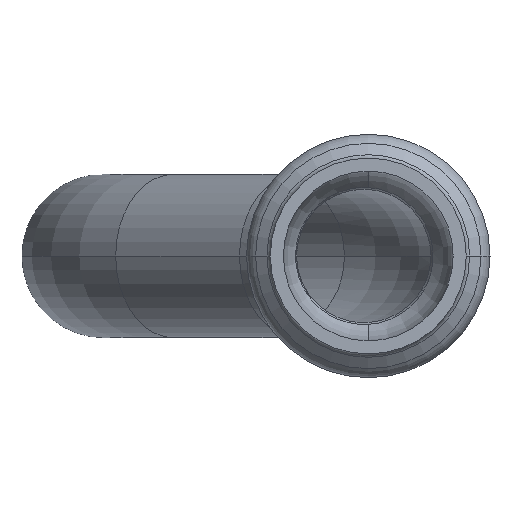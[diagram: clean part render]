
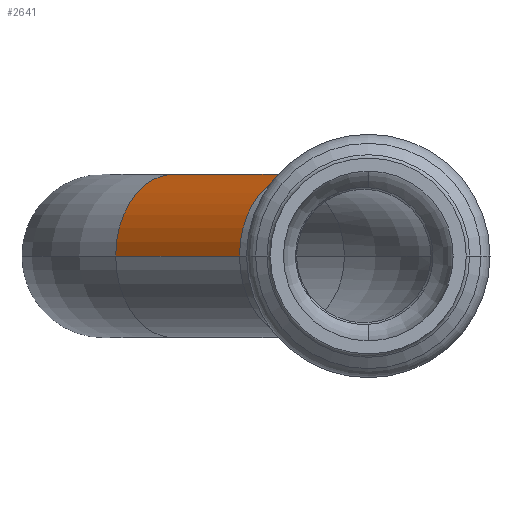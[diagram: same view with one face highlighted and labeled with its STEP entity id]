
A CAD part, left-side view. The second image highlights one B-rep face of the part: STEP entity #2641.
In plain terms, the highlighted cylindrical face has radius 8.75 mm (diameter 17.5 mm), a partial arc.
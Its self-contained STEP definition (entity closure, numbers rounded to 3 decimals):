
#128 = CIRCLE ( 'NONE', #4475, 8.75 ) ;
#132 = DIRECTION ( 'NONE',  ( 0., 0., -1. ) ) ;
#416 = DIRECTION ( 'NONE',  ( 0.707, 0.707, 0. ) ) ;
#429 = CARTESIAN_POINT ( 'NONE',  ( -24.572, 27.072, 0. ) ) ;
#527 = DIRECTION ( 'NONE',  ( 0.707, 0.707, 0. ) ) ;
#660 = ORIENTED_EDGE ( 'NONE', *, *, #2795, .F. ) ;
#799 = CARTESIAN_POINT ( 'NONE',  ( -18.385, 20.885, 0. ) ) ;
#813 = VERTEX_POINT ( 'NONE', #1084 ) ;
#840 = CARTESIAN_POINT ( 'NONE',  ( -31.654, 7.615, 0. ) ) ;
#936 = LINE ( 'NONE', #2600, #3598 ) ;
#1084 = CARTESIAN_POINT ( 'NONE',  ( -37.842, 13.802, 0. ) ) ;
#1126 = CARTESIAN_POINT ( 'NONE',  ( -12.198, 14.698, 0. ) ) ;
#1149 = DIRECTION ( 'NONE',  ( 0., 0., -1. ) ) ;
#1191 = DIRECTION ( 'NONE',  ( -0.707, 0.707, 0. ) ) ;
#1326 = EDGE_CURVE ( 'NONE', #813, #2752, #936, .T. ) ;
#1396 = AXIS2_PLACEMENT_3D ( 'NONE', #4279, #2226, #132 ) ;
#1459 = CARTESIAN_POINT ( 'NONE',  ( -25.467, 1.428, 0. ) ) ;
#1523 = DIRECTION ( 'NONE',  ( 0.707, 0.707, 0. ) ) ;
#2133 = ORIENTED_EDGE ( 'NONE', *, *, #2885, .T. ) ;
#2176 = CARTESIAN_POINT ( 'NONE',  ( -25.467, 1.428, 0. ) ) ;
#2202 = VECTOR ( 'NONE', #416, 1000. ) ;
#2226 = DIRECTION ( 'NONE',  ( 0.707, 0.707, 0. ) ) ;
#2306 = LINE ( 'NONE', #1459, #2202 ) ;
#2395 = ORIENTED_EDGE ( 'NONE', *, *, #1326, .F. ) ;
#2576 = CIRCLE ( 'NONE', #1396, 8.75 ) ;
#2600 = CARTESIAN_POINT ( 'NONE',  ( -37.842, 13.802, 0. ) ) ;
#2641 = ADVANCED_FACE ( 'NONE', ( #3021 ), #2909, .T. ) ;
#2752 = VERTEX_POINT ( 'NONE', #429 ) ;
#2795 = EDGE_CURVE ( 'NONE', #2752, #4492, #128, .T. ) ;
#2885 = EDGE_CURVE ( 'NONE', #813, #3160, #2576, .T. ) ;
#2909 = CYLINDRICAL_SURFACE ( 'NONE', #3346, 8.75 ) ;
#3021 = FACE_OUTER_BOUND ( 'NONE', #3842, .T. ) ;
#3160 = VERTEX_POINT ( 'NONE', #2176 ) ;
#3227 = DIRECTION ( 'NONE',  ( 0.707, 0.707, 0. ) ) ;
#3346 = AXIS2_PLACEMENT_3D ( 'NONE', #840, #1523, #1191 ) ;
#3598 = VECTOR ( 'NONE', #527, 1000. ) ;
#3842 = EDGE_LOOP ( 'NONE', ( #2133, #4333, #660, #2395 ) ) ;
#4279 = CARTESIAN_POINT ( 'NONE',  ( -31.654, 7.615, 0. ) ) ;
#4333 = ORIENTED_EDGE ( 'NONE', *, *, #4487, .T. ) ;
#4475 = AXIS2_PLACEMENT_3D ( 'NONE', #799, #3227, #1149 ) ;
#4487 = EDGE_CURVE ( 'NONE', #3160, #4492, #2306, .T. ) ;
#4492 = VERTEX_POINT ( 'NONE', #1126 ) ;
